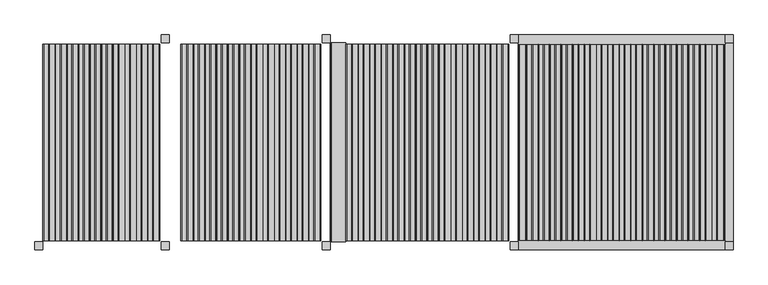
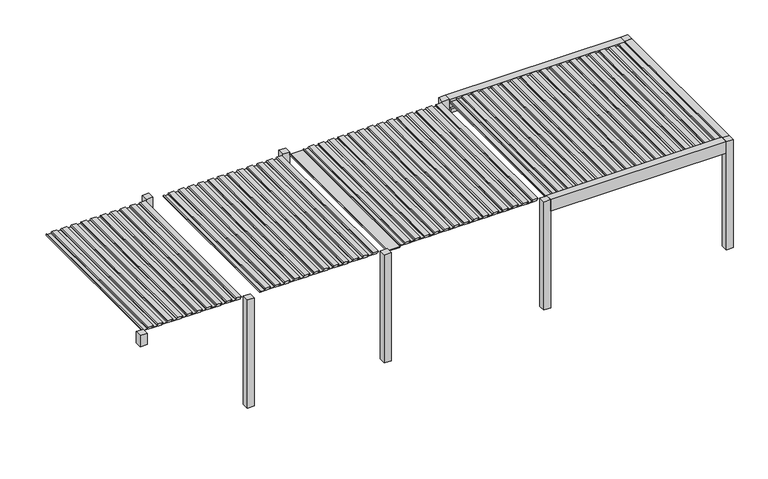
"""IFC4 building model written with IfcOpenShell, lengths in millimetres: proxy geometry, Renson_Camargue_Skye_Facade-Mounted_Patio covers : Renson_Camargue_Skye_Facade-Mounted_Patio covers."""

from ifc_helpers import new_model, si_unit, point, frame, frame_2d, origin, origin_with_axes, place, context, project, spatial, polyline, circle_curve, trimmed, segment, composite_curve, outline, extrude, source, transform, mapped, element, save


def generic_models_ba1bd23f(model_context):
    return source(origin(), model_context, "Body", "SweptSolid", [
        extrude(outline(composite_curve([segment(polyline([(2458.35, 11323.7338351), (2486.01198, 11326.1539448), (2487.3970364, 11354.9891952), (2506.8911096, 11351.5518641), (2501.6075693, 11241.5547493)]), True, "CONTINUOUS"), segment(trimmed(circle_curve(frame_2d((2486.6248435, 11242.2744212)), 15.0), [point((2501.6075693, 11241.5547493))], [point((2489.2295662, 11227.5023049))], False, "CARTESIAN"), True, "CONTINUOUS"), segment(polyline([(2489.2295662, 11227.5023049), (2470.0, 11224.1116136), (2470.0, 11136.3758376), (2487.0788237, 11133.3643801), (2486.3450182, 11118.0874097), (2458.35, 11115.6381629), (2458.35, 11323.7338351)]), True, "CONTINUOUS")], self_intersect=False)), frame((0.0, -1830.0, 0.0), z_axis=(0.0, 1.0, 0.0), x_axis=(0.0, 0.0, 1.0)), (0.0, 0.0, 1.0), 3660.0),
        extrude(outline(composite_curve([segment(polyline([(2458.35, 11108.7230303), (2486.01198, 11111.14314), (2487.3970364, 11139.9783904), (2506.8911096, 11136.5410594), (2501.6075693, 11026.5439445)]), True, "CONTINUOUS"), segment(trimmed(circle_curve(frame_2d((2486.6248435, 11027.2636164)), 15.0), [point((2501.6075693, 11026.5439445))], [point((2489.2295662, 11012.4915001))], False, "CARTESIAN"), True, "CONTINUOUS"), segment(polyline([(2489.2295662, 11012.4915001), (2470.0, 11009.1008088), (2470.0, 10921.3650328), (2487.0788237, 10918.3535754), (2486.3450182, 10903.0766049), (2458.35, 10900.6273582), (2458.35, 11108.7230303)]), True, "CONTINUOUS")], self_intersect=False)), frame((0.0, -1830.0, 0.0), z_axis=(0.0, 1.0, 0.0), x_axis=(0.0, 0.0, 1.0)), (0.0, 0.0, 1.0), 3660.0),
        extrude(outline(composite_curve([segment(polyline([(2458.35, 10893.7122255), (2486.01198, 10896.1323352), (2487.3970364, 10924.9675857), (2506.8911096, 10921.5302546), (2501.6075693, 10811.5331397)]), True, "CONTINUOUS"), segment(trimmed(circle_curve(frame_2d((2486.6248435, 10812.2528117)), 15.0), [point((2501.6075693, 10811.5331397))], [point((2489.2295662, 10797.4806954))], False, "CARTESIAN"), True, "CONTINUOUS"), segment(polyline([(2489.2295662, 10797.4806954), (2470.0, 10794.090004), (2470.0, 10706.354228), (2487.0788237, 10703.3427706), (2486.3450182, 10688.0658001), (2458.35, 10685.6165534), (2458.35, 10893.7122255)]), True, "CONTINUOUS")], self_intersect=False)), frame((0.0, -1830.0, 0.0), z_axis=(0.0, 1.0, 0.0), x_axis=(0.0, 0.0, 1.0)), (0.0, 0.0, 1.0), 3660.0),
        extrude(outline(composite_curve([segment(polyline([(2458.35, 10678.7014208), (2486.01198, 10681.1215304), (2487.3970364, 10709.9567809), (2506.8911096, 10706.5194498), (2501.6075693, 10596.5223349)]), True, "CONTINUOUS"), segment(trimmed(circle_curve(frame_2d((2486.6248435, 10597.2420069)), 15.0), [point((2501.6075693, 10596.5223349))], [point((2489.2295662, 10582.4698906))], False, "CARTESIAN"), True, "CONTINUOUS"), segment(polyline([(2489.2295662, 10582.4698906), (2470.0, 10579.0791992), (2470.0, 10491.3434232), (2487.0788237, 10488.3319658), (2486.3450182, 10473.0549953), (2458.35, 10470.6057486), (2458.35, 10678.7014208)]), True, "CONTINUOUS")], self_intersect=False)), frame((0.0, -1830.0, 0.0), z_axis=(0.0, 1.0, 0.0), x_axis=(0.0, 0.0, 1.0)), (0.0, 0.0, 1.0), 3660.0),
        extrude(outline(composite_curve([segment(polyline([(2458.35, 10463.690616), (2486.01198, 10466.1107256), (2487.3970364, 10494.9459761), (2506.8911096, 10491.508645), (2501.6075693, 10381.5115302)]), True, "CONTINUOUS"), segment(trimmed(circle_curve(frame_2d((2486.6248435, 10382.2312021)), 15.0), [point((2501.6075693, 10381.5115302))], [point((2489.2295662, 10367.4590858))], False, "CARTESIAN"), True, "CONTINUOUS"), segment(polyline([(2489.2295662, 10367.4590858), (2470.0, 10364.0683945), (2470.0, 10276.3326184), (2487.0788237, 10273.321161), (2486.3450182, 10258.0441905), (2458.35, 10255.5949438), (2458.35, 10463.690616)]), True, "CONTINUOUS")], self_intersect=False)), frame((0.0, -1830.0, 0.0), z_axis=(0.0, 1.0, 0.0), x_axis=(0.0, 0.0, 1.0)), (0.0, 0.0, 1.0), 3660.0),
        extrude(outline(composite_curve([segment(polyline([(2458.35, 10248.6798112), (2486.01198, 10251.0999209), (2487.3970364, 10279.9351713), (2506.8911096, 10276.4978402), (2501.6075693, 10166.5007254)]), True, "CONTINUOUS"), segment(trimmed(circle_curve(frame_2d((2486.6248435, 10167.2203973)), 15.0), [point((2501.6075693, 10166.5007254))], [point((2489.2295662, 10152.448281))], False, "CARTESIAN"), True, "CONTINUOUS"), segment(polyline([(2489.2295662, 10152.448281), (2470.0, 10149.0575897), (2470.0, 10061.3218136), (2487.0788237, 10058.3103562), (2486.3450182, 10043.0333858), (2458.35, 10040.584139), (2458.35, 10248.6798112)]), True, "CONTINUOUS")], self_intersect=False)), frame((0.0, -1830.0, 0.0), z_axis=(0.0, 1.0, 0.0), x_axis=(0.0, 0.0, 1.0)), (0.0, 0.0, 1.0), 3660.0),
        extrude(outline(composite_curve([segment(polyline([(2458.35, 10033.6690064), (2486.01198, 10036.0891161), (2487.3970364, 10064.9243665), (2506.8911096, 10061.4870355), (2501.6075693, 9951.4899206)]), True, "CONTINUOUS"), segment(trimmed(circle_curve(frame_2d((2486.6248435, 9952.2095925)), 15.0), [point((2501.6075693, 9951.4899206))], [point((2489.2295662, 9937.4374762))], False, "CARTESIAN"), True, "CONTINUOUS"), segment(polyline([(2489.2295662, 9937.4374762), (2470.0, 9934.0467849), (2470.0, 9846.3110089), (2487.0788237, 9843.2995515), (2486.3450182, 9828.022581), (2458.35, 9825.5733343), (2458.35, 10033.6690064)]), True, "CONTINUOUS")], self_intersect=False)), frame((0.0, -1830.0, 0.0), z_axis=(0.0, 1.0, 0.0), x_axis=(0.0, 0.0, 1.0)), (0.0, 0.0, 1.0), 3660.0),
        extrude(outline(composite_curve([segment(polyline([(2458.35, 9818.6582016), (2486.01198, 9821.0783113), (2487.3970364, 9849.9135617), (2506.8911096, 9846.4762307), (2501.6075693, 9736.4791158)]), True, "CONTINUOUS"), segment(trimmed(circle_curve(frame_2d((2486.6248435, 9737.1987878)), 15.0), [point((2501.6075693, 9736.4791158))], [point((2489.2295662, 9722.4266715))], False, "CARTESIAN"), True, "CONTINUOUS"), segment(polyline([(2489.2295662, 9722.4266715), (2470.0, 9719.0359801), (2470.0, 9631.3002041), (2487.0788237, 9628.2887467), (2486.3450182, 9613.0117762), (2458.35, 9610.5625295), (2458.35, 9818.6582016)]), True, "CONTINUOUS")], self_intersect=False)), frame((0.0, -1830.0, 0.0), z_axis=(0.0, 1.0, 0.0), x_axis=(0.0, 0.0, 1.0)), (0.0, 0.0, 1.0), 3660.0),
        extrude(outline(composite_curve([segment(polyline([(2458.35, 9603.6473968), (2486.01198, 9606.0675065), (2487.3970364, 9634.902757), (2506.8911096, 9631.4654259), (2501.6075693, 9521.468311)]), True, "CONTINUOUS"), segment(trimmed(circle_curve(frame_2d((2486.6248435, 9522.187983)), 15.0), [point((2501.6075693, 9521.468311))], [point((2489.2295662, 9507.4158667))], False, "CARTESIAN"), True, "CONTINUOUS"), segment(polyline([(2489.2295662, 9507.4158667), (2470.0, 9504.0251753), (2470.0, 9416.2893993), (2487.0788237, 9413.2779419), (2486.3450182, 9398.0009714), (2458.35, 9395.5517247), (2458.35, 9603.6473968)]), True, "CONTINUOUS")], self_intersect=False)), frame((0.0, -1830.0, 0.0), z_axis=(0.0, 1.0, 0.0), x_axis=(0.0, 0.0, 1.0)), (0.0, 0.0, 1.0), 3660.0),
        extrude(outline(composite_curve([segment(polyline([(2458.35, 9388.6365921), (2486.01198, 9391.0567017), (2487.3970364, 9419.8919522), (2506.8911096, 9416.4546211), (2501.6075693, 9306.4575063)]), True, "CONTINUOUS"), segment(trimmed(circle_curve(frame_2d((2486.6248435, 9307.1771782)), 15.0), [point((2501.6075693, 9306.4575063))], [point((2489.2295662, 9292.4050619))], False, "CARTESIAN"), True, "CONTINUOUS"), segment(polyline([(2489.2295662, 9292.4050619), (2470.0, 9289.0143706), (2470.0, 9201.2785945), (2487.0788237, 9198.2671371), (2486.3450182, 9182.9901666), (2458.35, 9180.5409199), (2458.35, 9388.6365921)]), True, "CONTINUOUS")], self_intersect=False)), frame((0.0, -1830.0, 0.0), z_axis=(0.0, 1.0, 0.0), x_axis=(0.0, 0.0, 1.0)), (0.0, 0.0, 1.0), 3660.0),
        extrude(outline(composite_curve([segment(polyline([(2458.35, 9173.6257873), (2486.01198, 9176.0458969), (2487.3970364, 9204.8811474), (2506.8911096, 9201.4438163), (2501.6075693, 9091.4467015)]), True, "CONTINUOUS"), segment(trimmed(circle_curve(frame_2d((2486.6248435, 9092.1663734)), 15.0), [point((2501.6075693, 9091.4467015))], [point((2489.2295662, 9077.3942571))], False, "CARTESIAN"), True, "CONTINUOUS"), segment(polyline([(2489.2295662, 9077.3942571), (2470.0, 9074.0035658), (2470.0, 8986.2677897), (2487.0788237, 8983.2563323), (2486.3450182, 8967.9793619), (2458.35, 8965.5301151), (2458.35, 9173.6257873)]), True, "CONTINUOUS")], self_intersect=False)), frame((0.0, -1830.0, 0.0), z_axis=(0.0, 1.0, 0.0), x_axis=(0.0, 0.0, 1.0)), (0.0, 0.0, 1.0), 3660.0),
        extrude(outline(composite_curve([segment(polyline([(2458.35, 8958.6149825), (2486.01198, 8961.0350922), (2487.3970364, 8989.8703426), (2506.8911096, 8986.4330115), (2501.6075693, 8876.4358967)]), True, "CONTINUOUS"), segment(trimmed(circle_curve(frame_2d((2486.6248435, 8877.1555686)), 15.0), [point((2501.6075693, 8876.4358967))], [point((2489.2295662, 8862.3834523))], False, "CARTESIAN"), True, "CONTINUOUS"), segment(polyline([(2489.2295662, 8862.3834523), (2470.0, 8858.992761), (2470.0, 8771.256985), (2487.0788237, 8768.2455275), (2486.3450182, 8752.9685571), (2458.35, 8750.5193103), (2458.35, 8958.6149825)]), True, "CONTINUOUS")], self_intersect=False)), frame((0.0, -1830.0, 0.0), z_axis=(0.0, 1.0, 0.0), x_axis=(0.0, 0.0, 1.0)), (0.0, 0.0, 1.0), 3660.0),
        extrude(outline(composite_curve([segment(polyline([(2458.35, 8743.6041777), (2486.01198, 8746.0242874), (2487.3970364, 8774.8595378), (2506.8911096, 8771.4222068), (2501.6075693, 8661.4250919)]), True, "CONTINUOUS"), segment(trimmed(circle_curve(frame_2d((2486.6248435, 8662.1447638)), 15.0), [point((2501.6075693, 8661.4250919))], [point((2489.2295662, 8647.3726475))], False, "CARTESIAN"), True, "CONTINUOUS"), segment(polyline([(2489.2295662, 8647.3726475), (2470.0, 8643.9819562), (2470.0, 8556.2461802), (2487.0788237, 8553.2347228), (2486.3450182, 8537.9577523), (2458.35, 8535.5085056), (2458.35, 8743.6041777)]), True, "CONTINUOUS")], self_intersect=False)), frame((0.0, -1830.0, 0.0), z_axis=(0.0, 1.0, 0.0), x_axis=(0.0, 0.0, 1.0)), (0.0, 0.0, 1.0), 3660.0),
        extrude(outline(composite_curve([segment(polyline([(2458.35, 8528.5933729), (2486.01198, 8531.0134826), (2487.3970364, 8559.8487331), (2506.8911096, 8556.411402), (2501.6075693, 8446.4142871)]), True, "CONTINUOUS"), segment(trimmed(circle_curve(frame_2d((2486.6248435, 8447.1339591)), 15.0), [point((2501.6075693, 8446.4142871))], [point((2489.2295662, 8432.3618428))], False, "CARTESIAN"), True, "CONTINUOUS"), segment(polyline([(2489.2295662, 8432.3618428), (2470.0, 8428.9711514), (2470.0, 8341.2353754), (2487.0788237, 8338.223918), (2486.3450182, 8322.9469475), (2458.35, 8320.4977008), (2458.35, 8528.5933729)]), True, "CONTINUOUS")], self_intersect=False)), frame((0.0, -1830.0, 0.0), z_axis=(0.0, 1.0, 0.0), x_axis=(0.0, 0.0, 1.0)), (0.0, 0.0, 1.0), 3660.0),
        extrude(outline(composite_curve([segment(polyline([(2458.35, 8313.5825682), (2486.01198, 8316.0026778), (2487.3970364, 8344.8379283), (2506.8911096, 8341.4005972), (2501.6075693, 8231.4034824)]), True, "CONTINUOUS"), segment(trimmed(circle_curve(frame_2d((2486.6248435, 8232.1231543)), 15.0), [point((2501.6075693, 8231.4034824))], [point((2489.2295662, 8217.351038))], False, "CARTESIAN"), True, "CONTINUOUS"), segment(polyline([(2489.2295662, 8217.351038), (2470.0, 8213.9603466), (2470.0, 8126.2245706), (2487.0788237, 8123.2131132), (2486.3450182, 8107.9361427), (2458.35, 8105.486896), (2458.35, 8313.5825682)]), True, "CONTINUOUS")], self_intersect=False)), frame((0.0, -1830.0, 0.0), z_axis=(0.0, 1.0, 0.0), x_axis=(0.0, 0.0, 1.0)), (0.0, 0.0, 1.0), 3660.0),
        extrude(outline(composite_curve([segment(polyline([(2458.35, 11538.7446399), (2486.01198, 11541.1647495), (2487.3970364, 11570.0), (2506.8911096, 11566.5626689), (2501.6075693, 11456.5655541)]), True, "CONTINUOUS"), segment(trimmed(circle_curve(frame_2d((2486.6248435, 11457.285226)), 15.0), [point((2501.6075693, 11456.5655541))], [point((2489.2295662, 11442.5131097))], False, "CARTESIAN"), True, "CONTINUOUS"), segment(polyline([(2489.2295662, 11442.5131097), (2470.0, 11439.1224184), (2470.0, 11351.3866423), (2487.0788237, 11348.3751849), (2486.3450182, 11333.0982144), (2458.35, 11330.6489677), (2458.35, 11538.7446399)]), True, "CONTINUOUS")], self_intersect=False)), frame((0.0, -1830.0, 0.0), z_axis=(0.0, 1.0, 0.0), x_axis=(0.0, 0.0, 1.0)), (0.0, 0.0, 1.0), 3660.0),
        extrude(outline(composite_curve([segment(polyline([(2458.35, 8098.5717634), (2486.01198, 8100.991873), (2487.3970364, 8129.8271235), (2506.8911096, 8126.3897924), (2501.6075693, 8016.3926776)]), True, "CONTINUOUS"), segment(trimmed(circle_curve(frame_2d((2486.6248435, 8017.1123495)), 15.0), [point((2501.6075693, 8016.3926776))], [point((2489.2295662, 8002.3402332))], False, "CARTESIAN"), True, "CONTINUOUS"), segment(polyline([(2489.2295662, 8002.3402332), (2470.0, 7998.9495419), (2470.0, 7911.2137658), (2487.0788237, 7908.2023084), (2486.3450182, 7892.9253379), (2458.35, 7890.4760912), (2458.35, 8098.5717634)]), True, "CONTINUOUS")], self_intersect=False)), frame((0.0, -1830.0, 0.0), z_axis=(0.0, 1.0, 0.0), x_axis=(0.0, 0.0, 1.0)), (0.0, 0.0, 1.0), 3660.0),
        extrude(outline(composite_curve([segment(polyline([(2458.35, 7323.7313417), (2486.01198, 7326.1514513), (2487.3970364, 7354.9867018), (2506.8911096, 7351.5493707), (2501.6075693, 7241.5522559)]), True, "CONTINUOUS"), segment(trimmed(circle_curve(frame_2d((2486.6248435, 7242.2719278)), 15.0), [point((2501.6075693, 7241.5522559))], [point((2489.2295662, 7227.4998115))], False, "CARTESIAN"), True, "CONTINUOUS"), segment(polyline([(2489.2295662, 7227.4998115), (2470.0, 7224.1091202), (2470.0, 7136.3733441), (2487.0788237, 7133.3618867), (2486.3450182, 7118.0849163), (2458.35, 7115.6356695), (2458.35, 7323.7313417)]), True, "CONTINUOUS")], self_intersect=False)), frame((0.0, -1830.0, 0.0), z_axis=(0.0, 1.0, 0.0), x_axis=(0.0, 0.0, 1.0)), (0.0, 0.0, 1.0), 3660.0),
        extrude(outline(composite_curve([segment(polyline([(2458.35, 7108.7180435), (2486.01198, 7111.1381532), (2487.3970364, 7139.9734036), (2506.8911096, 7136.5360725), (2501.6075693, 7026.5389577)]), True, "CONTINUOUS"), segment(trimmed(circle_curve(frame_2d((2486.6248435, 7027.2586296)), 15.0), [point((2501.6075693, 7026.5389577))], [point((2489.2295662, 7012.4865133))], False, "CARTESIAN"), True, "CONTINUOUS"), segment(polyline([(2489.2295662, 7012.4865133), (2470.0, 7009.095822), (2470.0, 6921.360046), (2487.0788237, 6918.3485885), (2486.3450182, 6903.0716181), (2458.35, 6900.6223713), (2458.35, 7108.7180435)]), True, "CONTINUOUS")], self_intersect=False)), frame((0.0, -1830.0, 0.0), z_axis=(0.0, 1.0, 0.0), x_axis=(0.0, 0.0, 1.0)), (0.0, 0.0, 1.0), 3660.0),
        extrude(outline(composite_curve([segment(polyline([(2458.35, 6893.7047453), (2486.01198, 6896.124855), (2487.3970364, 6924.9601054), (2506.8911096, 6921.5227743), (2501.6075693, 6811.5256595)]), True, "CONTINUOUS"), segment(trimmed(circle_curve(frame_2d((2486.6248435, 6812.2453314)), 15.0), [point((2501.6075693, 6811.5256595))], [point((2489.2295662, 6797.4732151))], False, "CARTESIAN"), True, "CONTINUOUS"), segment(polyline([(2489.2295662, 6797.4732151), (2470.0, 6794.0825238), (2470.0, 6706.3467478), (2487.0788237, 6703.3352903), (2486.3450182, 6688.0583199), (2458.35, 6685.6090731), (2458.35, 6893.7047453)]), True, "CONTINUOUS")], self_intersect=False)), frame((0.0, -1830.0, 0.0), z_axis=(0.0, 1.0, 0.0), x_axis=(0.0, 0.0, 1.0)), (0.0, 0.0, 1.0), 3660.0),
        extrude(outline(composite_curve([segment(polyline([(2458.35, 6678.6914471), (2486.01198, 6681.1115568), (2487.3970364, 6709.9468072), (2506.8911096, 6706.5094762), (2501.6075693, 6596.5123613)]), True, "CONTINUOUS"), segment(trimmed(circle_curve(frame_2d((2486.6248435, 6597.2320332)), 15.0), [point((2501.6075693, 6596.5123613))], [point((2489.2295662, 6582.4599169))], False, "CARTESIAN"), True, "CONTINUOUS"), segment(polyline([(2489.2295662, 6582.4599169), (2470.0, 6579.0692256), (2470.0, 6491.3334496), (2487.0788237, 6488.3219922), (2486.3450182, 6473.0450217), (2458.35, 6470.595775), (2458.35, 6678.6914471)]), True, "CONTINUOUS")], self_intersect=False)), frame((0.0, -1830.0, 0.0), z_axis=(0.0, 1.0, 0.0), x_axis=(0.0, 0.0, 1.0)), (0.0, 0.0, 1.0), 3660.0),
        extrude(outline(composite_curve([segment(polyline([(2458.35, 6463.6781489), (2486.01198, 6466.0982586), (2487.3970364, 6494.933509), (2506.8911096, 6491.496178), (2501.6075693, 6381.4990631)]), True, "CONTINUOUS"), segment(trimmed(circle_curve(frame_2d((2486.6248435, 6382.218735)), 15.0), [point((2501.6075693, 6381.4990631))], [point((2489.2295662, 6367.4466187))], False, "CARTESIAN"), True, "CONTINUOUS"), segment(polyline([(2489.2295662, 6367.4466187), (2470.0, 6364.0559274), (2470.0, 6276.3201514), (2487.0788237, 6273.308694), (2486.3450182, 6258.0317235), (2458.35, 6255.5824768), (2458.35, 6463.6781489)]), True, "CONTINUOUS")], self_intersect=False)), frame((0.0, -1830.0, 0.0), z_axis=(0.0, 1.0, 0.0), x_axis=(0.0, 0.0, 1.0)), (0.0, 0.0, 1.0), 3660.0),
        extrude(outline(composite_curve([segment(polyline([(2458.35, 6248.6648507), (2486.01198, 6251.0849604), (2487.3970364, 6279.9202108), (2506.8911096, 6276.4828798), (2501.6075693, 6166.4857649)]), True, "CONTINUOUS"), segment(trimmed(circle_curve(frame_2d((2486.6248435, 6167.2054368)), 15.0), [point((2501.6075693, 6166.4857649))], [point((2489.2295662, 6152.4333206))], False, "CARTESIAN"), True, "CONTINUOUS"), segment(polyline([(2489.2295662, 6152.4333206), (2470.0, 6149.0426292), (2470.0, 6061.3068532), (2487.0788237, 6058.2953958), (2486.3450182, 6043.0184253), (2458.35, 6040.5691786), (2458.35, 6248.6648507)]), True, "CONTINUOUS")], self_intersect=False)), frame((0.0, -1830.0, 0.0), z_axis=(0.0, 1.0, 0.0), x_axis=(0.0, 0.0, 1.0)), (0.0, 0.0, 1.0), 3660.0),
        extrude(outline(composite_curve([segment(polyline([(2458.35, 6033.6515525), (2486.01198, 6036.0716622), (2487.3970364, 6064.9069127), (2506.8911096, 6061.4695816), (2501.6075693, 5951.4724667)]), True, "CONTINUOUS"), segment(trimmed(circle_curve(frame_2d((2486.6248435, 5952.1921387)), 15.0), [point((2501.6075693, 5951.4724667))], [point((2489.2295662, 5937.4200224))], False, "CARTESIAN"), True, "CONTINUOUS"), segment(polyline([(2489.2295662, 5937.4200224), (2470.0, 5934.029331), (2470.0, 5846.293555), (2487.0788237, 5843.2820976), (2486.3450182, 5828.0051271), (2458.35, 5825.5558804), (2458.35, 6033.6515525)]), True, "CONTINUOUS")], self_intersect=False)), frame((0.0, -1830.0, 0.0), z_axis=(0.0, 1.0, 0.0), x_axis=(0.0, 0.0, 1.0)), (0.0, 0.0, 1.0), 3660.0),
        extrude(outline(composite_curve([segment(polyline([(2458.35, 5818.6382543), (2486.01198, 5821.058364), (2487.3970364, 5849.8936145), (2506.8911096, 5846.4562834), (2501.6075693, 5736.4591685)]), True, "CONTINUOUS"), segment(trimmed(circle_curve(frame_2d((2486.6248435, 5737.1788405)), 15.0), [point((2501.6075693, 5736.4591685))], [point((2489.2295662, 5722.4067242))], False, "CARTESIAN"), True, "CONTINUOUS"), segment(polyline([(2489.2295662, 5722.4067242), (2470.0, 5719.0160328), (2470.0, 5631.2802568), (2487.0788237, 5628.2687994), (2486.3450182, 5612.9918289), (2458.35, 5610.5425822), (2458.35, 5818.6382543)]), True, "CONTINUOUS")], self_intersect=False)), frame((0.0, -1830.0, 0.0), z_axis=(0.0, 1.0, 0.0), x_axis=(0.0, 0.0, 1.0)), (0.0, 0.0, 1.0), 3660.0),
        extrude(outline(composite_curve([segment(polyline([(2458.35, 5603.6249561), (2486.01198, 5606.0450658), (2487.3970364, 5634.8803163), (2506.8911096, 5631.4429852), (2501.6075693, 5521.4458703)]), True, "CONTINUOUS"), segment(trimmed(circle_curve(frame_2d((2486.6248435, 5522.1655423)), 15.0), [point((2501.6075693, 5521.4458703))], [point((2489.2295662, 5507.393426))], False, "CARTESIAN"), True, "CONTINUOUS"), segment(polyline([(2489.2295662, 5507.393426), (2470.0, 5504.0027346), (2470.0, 5416.2669586), (2487.0788237, 5413.2555012), (2486.3450182, 5397.9785307), (2458.35, 5395.529284), (2458.35, 5603.6249561)]), True, "CONTINUOUS")], self_intersect=False)), frame((0.0, -1830.0, 0.0), z_axis=(0.0, 1.0, 0.0), x_axis=(0.0, 0.0, 1.0)), (0.0, 0.0, 1.0), 3660.0),
        extrude(outline(composite_curve([segment(polyline([(2458.35, 5388.611658), (2486.01198, 5391.0317676), (2487.3970364, 5419.8670181), (2506.8911096, 5416.429687), (2501.6075693, 5306.4325721)]), True, "CONTINUOUS"), segment(trimmed(circle_curve(frame_2d((2486.6248435, 5307.1522441)), 15.0), [point((2501.6075693, 5306.4325721))], [point((2489.2295662, 5292.3801278))], False, "CARTESIAN"), True, "CONTINUOUS"), segment(polyline([(2489.2295662, 5292.3801278), (2470.0, 5288.9894364), (2470.0, 5201.2536604), (2487.0788237, 5198.242203), (2486.3450182, 5182.9652325), (2458.35, 5180.5159858), (2458.35, 5388.611658)]), True, "CONTINUOUS")], self_intersect=False)), frame((0.0, -1830.0, 0.0), z_axis=(0.0, 1.0, 0.0), x_axis=(0.0, 0.0, 1.0)), (0.0, 0.0, 1.0), 3660.0),
        extrude(outline(composite_curve([segment(polyline([(2458.35, 5173.5983598), (2486.01198, 5176.0184694), (2487.3970364, 5204.8537199), (2506.8911096, 5201.4163888), (2501.6075693, 5091.419274)]), True, "CONTINUOUS"), segment(trimmed(circle_curve(frame_2d((2486.6248435, 5092.1389459)), 15.0), [point((2501.6075693, 5091.419274))], [point((2489.2295662, 5077.3668296))], False, "CARTESIAN"), True, "CONTINUOUS"), segment(polyline([(2489.2295662, 5077.3668296), (2470.0, 5073.9761382), (2470.0, 4986.2403622), (2487.0788237, 4983.2289048), (2486.3450182, 4967.9519343), (2458.35, 4965.5026876), (2458.35, 5173.5983598)]), True, "CONTINUOUS")], self_intersect=False)), frame((0.0, -1830.0, 0.0), z_axis=(0.0, 1.0, 0.0), x_axis=(0.0, 0.0, 1.0)), (0.0, 0.0, 1.0), 3660.0),
        extrude(outline(composite_curve([segment(polyline([(2458.35, 4958.5850616), (2486.01198, 4961.0051712), (2487.3970364, 4989.8404217), (2506.8911096, 4986.4030906), (2501.6075693, 4876.4059758)]), True, "CONTINUOUS"), segment(trimmed(circle_curve(frame_2d((2486.6248435, 4877.1256477)), 15.0), [point((2501.6075693, 4876.4059758))], [point((2489.2295662, 4862.3535314))], False, "CARTESIAN"), True, "CONTINUOUS"), segment(polyline([(2489.2295662, 4862.3535314), (2470.0, 4858.9628401), (2470.0, 4771.227064), (2487.0788237, 4768.2156066), (2486.3450182, 4752.9386361), (2458.35, 4750.4893894), (2458.35, 4958.5850616)]), True, "CONTINUOUS")], self_intersect=False)), frame((0.0, -1830.0, 0.0), z_axis=(0.0, 1.0, 0.0), x_axis=(0.0, 0.0, 1.0)), (0.0, 0.0, 1.0), 3660.0),
        extrude(outline(composite_curve([segment(polyline([(2458.35, 7538.7446399), (2486.01198, 7541.1647495), (2487.3970364, 7570.0), (2506.8911096, 7566.5626689), (2501.6075693, 7456.5655541)]), True, "CONTINUOUS"), segment(trimmed(circle_curve(frame_2d((2486.6248435, 7457.285226)), 15.0), [point((2501.6075693, 7456.5655541))], [point((2489.2295662, 7442.5131097))], False, "CARTESIAN"), True, "CONTINUOUS"), segment(polyline([(2489.2295662, 7442.5131097), (2470.0, 7439.1224184), (2470.0, 7351.3866423), (2487.0788237, 7348.3751849), (2486.3450182, 7333.0982144), (2458.35, 7330.6489677), (2458.35, 7538.7446399)]), True, "CONTINUOUS")], self_intersect=False)), frame((0.0, -1830.0, 0.0), z_axis=(0.0, 1.0, 0.0), x_axis=(0.0, 0.0, 1.0)), (0.0, 0.0, 1.0), 3660.0),
        extrude(outline(composite_curve([segment(polyline([(2458.35, 4743.5717634), (2486.01198, 4745.991873), (2487.3970364, 4774.8271235), (2506.8911096, 4771.3897924), (2501.6075693, 4661.3926776)]), True, "CONTINUOUS"), segment(trimmed(circle_curve(frame_2d((2486.6248435, 4662.1123495)), 15.0), [point((2501.6075693, 4661.3926776))], [point((2489.2295662, 4647.3402332))], False, "CARTESIAN"), True, "CONTINUOUS"), segment(polyline([(2489.2295662, 4647.3402332), (2470.0, 4643.9495419), (2470.0, 4556.2137658), (2487.0788237, 4553.2023084), (2486.3450182, 4537.9253379), (2458.35, 4535.4760912), (2458.35, 4743.5717634)]), True, "CONTINUOUS")], self_intersect=False)), frame((0.0, -1830.0, 0.0), z_axis=(0.0, 1.0, 0.0), x_axis=(0.0, 0.0, 1.0)), (0.0, 0.0, 1.0), 3660.0),
        extrude(outline(composite_curve([segment(polyline([(2458.35, 3823.7289238), (2486.01198, 3826.1490335), (2487.3970364, 3854.984284), (2506.8911096, 3851.5469529), (2501.6075693, 3741.549838)]), True, "CONTINUOUS"), segment(trimmed(circle_curve(frame_2d((2486.6248435, 3742.26951)), 15.0), [point((2501.6075693, 3741.549838))], [point((2489.2295662, 3727.4973937))], False, "CARTESIAN"), True, "CONTINUOUS"), segment(polyline([(2489.2295662, 3727.4973937), (2470.0, 3724.1067023), (2470.0, 3636.3709263), (2487.0788237, 3633.3594689), (2486.3450182, 3618.0824984), (2458.35, 3615.6332517), (2458.35, 3823.7289238)]), True, "CONTINUOUS")], self_intersect=False)), frame((0.0, -1830.0, 0.0), z_axis=(0.0, 1.0, 0.0), x_axis=(0.0, 0.0, 1.0)), (0.0, 0.0, 1.0), 3660.0),
        extrude(outline(composite_curve([segment(polyline([(2458.35, 3608.7132078), (2486.01198, 3611.1333174), (2487.3970364, 3639.9685679), (2506.8911096, 3636.5312368), (2501.6075693, 3526.534122)]), True, "CONTINUOUS"), segment(trimmed(circle_curve(frame_2d((2486.6248435, 3527.2537939)), 15.0), [point((2501.6075693, 3526.534122))], [point((2489.2295662, 3512.4816776))], False, "CARTESIAN"), True, "CONTINUOUS"), segment(polyline([(2489.2295662, 3512.4816776), (2470.0, 3509.0909863), (2470.0, 3421.3552102), (2487.0788237, 3418.3437528), (2486.3450182, 3403.0667824), (2458.35, 3400.6175356), (2458.35, 3608.7132078)]), True, "CONTINUOUS")], self_intersect=False)), frame((0.0, -1830.0, 0.0), z_axis=(0.0, 1.0, 0.0), x_axis=(0.0, 0.0, 1.0)), (0.0, 0.0, 1.0), 3660.0),
        extrude(outline(composite_curve([segment(polyline([(2458.35, 3393.6974917), (2486.01198, 3396.1176014), (2487.3970364, 3424.9528519), (2506.8911096, 3421.5155208), (2501.6075693, 3311.5184059)]), True, "CONTINUOUS"), segment(trimmed(circle_curve(frame_2d((2486.6248435, 3312.2380779)), 15.0), [point((2501.6075693, 3311.5184059))], [point((2489.2295662, 3297.4659616))], False, "CARTESIAN"), True, "CONTINUOUS"), segment(polyline([(2489.2295662, 3297.4659616), (2470.0, 3294.0752702), (2470.0, 3206.3394942), (2487.0788237, 3203.3280368), (2486.3450182, 3188.0510663), (2458.35, 3185.6018196), (2458.35, 3393.6974917)]), True, "CONTINUOUS")], self_intersect=False)), frame((0.0, -1830.0, 0.0), z_axis=(0.0, 1.0, 0.0), x_axis=(0.0, 0.0, 1.0)), (0.0, 0.0, 1.0), 3660.0),
        extrude(outline(composite_curve([segment(polyline([(2458.35, 3178.6817757), (2486.01198, 3181.1018854), (2487.3970364, 3209.9371358), (2506.8911096, 3206.4998047), (2501.6075693, 3096.5026899)]), True, "CONTINUOUS"), segment(trimmed(circle_curve(frame_2d((2486.6248435, 3097.2223618)), 15.0), [point((2501.6075693, 3096.5026899))], [point((2489.2295662, 3082.4502455))], False, "CARTESIAN"), True, "CONTINUOUS"), segment(polyline([(2489.2295662, 3082.4502455), (2470.0, 3079.0595542), (2470.0, 2991.3237782), (2487.0788237, 2988.3123207), (2486.3450182, 2973.0353503), (2458.35, 2970.5861035), (2458.35, 3178.6817757)]), True, "CONTINUOUS")], self_intersect=False)), frame((0.0, -1830.0, 0.0), z_axis=(0.0, 1.0, 0.0), x_axis=(0.0, 0.0, 1.0)), (0.0, 0.0, 1.0), 3660.0),
        extrude(outline(composite_curve([segment(polyline([(2458.35, 2963.6660597), (2486.01198, 2966.0861693), (2487.3970364, 2994.9214198), (2506.8911096, 2991.4840887), (2501.6075693, 2881.4869738)]), True, "CONTINUOUS"), segment(trimmed(circle_curve(frame_2d((2486.6248435, 2882.2066458)), 15.0), [point((2501.6075693, 2881.4869738))], [point((2489.2295662, 2867.4345295))], False, "CARTESIAN"), True, "CONTINUOUS"), segment(polyline([(2489.2295662, 2867.4345295), (2470.0, 2864.0438381), (2470.0, 2776.3080621), (2487.0788237, 2773.2966047), (2486.3450182, 2758.0196342), (2458.35, 2755.5703875), (2458.35, 2963.6660597)]), True, "CONTINUOUS")], self_intersect=False)), frame((0.0, -1830.0, 0.0), z_axis=(0.0, 1.0, 0.0), x_axis=(0.0, 0.0, 1.0)), (0.0, 0.0, 1.0), 3660.0),
        extrude(outline(composite_curve([segment(polyline([(2458.35, 2748.6503436), (2486.01198, 2751.0704533), (2487.3970364, 2779.9057037), (2506.8911096, 2776.4683726), (2501.6075693, 2666.4712578)]), True, "CONTINUOUS"), segment(trimmed(circle_curve(frame_2d((2486.6248435, 2667.1909297)), 15.0), [point((2501.6075693, 2666.4712578))], [point((2489.2295662, 2652.4188134))], False, "CARTESIAN"), True, "CONTINUOUS"), segment(polyline([(2489.2295662, 2652.4188134), (2470.0, 2649.0281221), (2470.0, 2561.2923461), (2487.0788237, 2558.2808886), (2486.3450182, 2543.0039182), (2458.35, 2540.5546714), (2458.35, 2748.6503436)]), True, "CONTINUOUS")], self_intersect=False)), frame((0.0, -1830.0, 0.0), z_axis=(0.0, 1.0, 0.0), x_axis=(0.0, 0.0, 1.0)), (0.0, 0.0, 1.0), 3660.0),
        extrude(outline(composite_curve([segment(polyline([(2458.35, 2533.6346276), (2486.01198, 2536.0547372), (2487.3970364, 2564.8899877), (2506.8911096, 2561.4526566), (2501.6075693, 2451.4555418)]), True, "CONTINUOUS"), segment(trimmed(circle_curve(frame_2d((2486.6248435, 2452.1752137)), 15.0), [point((2501.6075693, 2451.4555418))], [point((2489.2295662, 2437.4030974))], False, "CARTESIAN"), True, "CONTINUOUS"), segment(polyline([(2489.2295662, 2437.4030974), (2470.0, 2434.012406), (2470.0, 2346.27663), (2487.0788237, 2343.2651726), (2486.3450182, 2327.9882021), (2458.35, 2325.5389554), (2458.35, 2533.6346276)]), True, "CONTINUOUS")], self_intersect=False)), frame((0.0, -1830.0, 0.0), z_axis=(0.0, 1.0, 0.0), x_axis=(0.0, 0.0, 1.0)), (0.0, 0.0, 1.0), 3660.0),
        extrude(outline(composite_curve([segment(polyline([(2458.35, 2318.6189115), (2486.01198, 2321.0390212), (2487.3970364, 2349.8742716), (2506.8911096, 2346.4369406), (2501.6075693, 2236.4398257)]), True, "CONTINUOUS"), segment(trimmed(circle_curve(frame_2d((2486.6248435, 2237.1594976)), 15.0), [point((2501.6075693, 2236.4398257))], [point((2489.2295662, 2222.3873813))], False, "CARTESIAN"), True, "CONTINUOUS"), segment(polyline([(2489.2295662, 2222.3873813), (2470.0, 2218.99669), (2470.0, 2131.260914), (2487.0788237, 2128.2494566), (2486.3450182, 2112.9724861), (2458.35, 2110.5232394), (2458.35, 2318.6189115)]), True, "CONTINUOUS")], self_intersect=False)), frame((0.0, -1830.0, 0.0), z_axis=(0.0, 1.0, 0.0), x_axis=(0.0, 0.0, 1.0)), (0.0, 0.0, 1.0), 3660.0),
        extrude(outline(composite_curve([segment(polyline([(2458.35, 2103.6031955), (2486.01198, 2106.0233051), (2487.3970364, 2134.8585556), (2506.8911096, 2131.4212245), (2501.6075693, 2021.4241097)]), True, "CONTINUOUS"), segment(trimmed(circle_curve(frame_2d((2486.6248435, 2022.1437816)), 15.0), [point((2501.6075693, 2021.4241097))], [point((2489.2295662, 2007.3716653))], False, "CARTESIAN"), True, "CONTINUOUS"), segment(polyline([(2489.2295662, 2007.3716653), (2470.0, 2003.980974), (2470.0, 1916.2451979), (2487.0788237, 1913.2337405), (2486.3450182, 1897.95677), (2458.35, 1895.5075233), (2458.35, 2103.6031955)]), True, "CONTINUOUS")], self_intersect=False)), frame((0.0, -1830.0, 0.0), z_axis=(0.0, 1.0, 0.0), x_axis=(0.0, 0.0, 1.0)), (0.0, 0.0, 1.0), 3660.0),
        extrude(outline(composite_curve([segment(polyline([(2458.35, 1888.5874794), (2486.01198, 1891.0075891), (2487.3970364, 1919.8428395), (2506.8911096, 1916.4055085), (2501.6075693, 1806.4083936)]), True, "CONTINUOUS"), segment(trimmed(circle_curve(frame_2d((2486.6248435, 1807.1280655)), 15.0), [point((2501.6075693, 1806.4083936))], [point((2489.2295662, 1792.3559492))], False, "CARTESIAN"), True, "CONTINUOUS"), segment(polyline([(2489.2295662, 1792.3559492), (2470.0, 1788.9652579), (2470.0, 1701.2294819), (2487.0788237, 1698.2180245), (2486.3450182, 1682.941054), (2458.35, 1680.4918073), (2458.35, 1888.5874794)]), True, "CONTINUOUS")], self_intersect=False)), frame((0.0, -1830.0, 0.0), z_axis=(0.0, 1.0, 0.0), x_axis=(0.0, 0.0, 1.0)), (0.0, 0.0, 1.0), 3660.0),
        extrude(outline(composite_curve([segment(polyline([(2458.35, 4038.7446399), (2486.01198, 4041.1647495), (2487.3970364, 4070.0), (2506.8911096, 4066.5626689), (2501.6075693, 3956.5655541)]), True, "CONTINUOUS"), segment(trimmed(circle_curve(frame_2d((2486.6248435, 3957.285226)), 15.0), [point((2501.6075693, 3956.5655541))], [point((2489.2295662, 3942.5131097))], False, "CARTESIAN"), True, "CONTINUOUS"), segment(polyline([(2489.2295662, 3942.5131097), (2470.0, 3939.1224184), (2470.0, 3851.3866423), (2487.0788237, 3848.3751849), (2486.3450182, 3833.0982144), (2458.35, 3830.6489677), (2458.35, 4038.7446399)]), True, "CONTINUOUS")], self_intersect=False)), frame((0.0, -1830.0, 0.0), z_axis=(0.0, 1.0, 0.0), x_axis=(0.0, 0.0, 1.0)), (0.0, 0.0, 1.0), 3660.0),
        extrude(outline(composite_curve([segment(polyline([(2458.35, 1673.5717634), (2486.01198, 1675.991873), (2487.3970364, 1704.8271235), (2506.8911096, 1701.3897924), (2501.6075693, 1591.3926776)]), True, "CONTINUOUS"), segment(trimmed(circle_curve(frame_2d((2486.6248435, 1592.1123495)), 15.0), [point((2501.6075693, 1591.3926776))], [point((2489.2295662, 1577.3402332))], False, "CARTESIAN"), True, "CONTINUOUS"), segment(polyline([(2489.2295662, 1577.3402332), (2470.0, 1573.9495419), (2470.0, 1486.2137658), (2487.0788237, 1483.2023084), (2486.3450182, 1467.9253379), (2458.35, 1465.4760912), (2458.35, 1673.5717634)]), True, "CONTINUOUS")], self_intersect=False)), frame((0.0, -1830.0, 0.0), z_axis=(0.0, 1.0, 0.0), x_axis=(0.0, 0.0, 1.0)), (0.0, 0.0, 1.0), 3660.0),
        extrude(outline(composite_curve([segment(polyline([(2458.35, 823.7254314), (2486.01198, 826.145541), (2487.3970364, 854.9807915), (2506.8911096, 851.5434604), (2501.6075693, 741.5463456)]), True, "CONTINUOUS"), segment(trimmed(circle_curve(frame_2d((2486.6248435, 742.2660175)), 15.0), [point((2501.6075693, 741.5463456))], [point((2489.2295662, 727.4939012))], False, "CARTESIAN"), True, "CONTINUOUS"), segment(polyline([(2489.2295662, 727.4939012), (2470.0, 724.1032099), (2470.0, 636.3674338), (2487.0788237, 633.3559764), (2486.3450182, 618.0790059), (2458.35, 615.6297592), (2458.35, 823.7254314)]), True, "CONTINUOUS")], self_intersect=False)), frame((0.0, -1830.0, 0.0), z_axis=(0.0, 1.0, 0.0), x_axis=(0.0, 0.0, 1.0)), (0.0, 0.0, 1.0), 3660.0),
        extrude(outline(composite_curve([segment(polyline([(2458.35, 608.7062229), (2486.01198, 611.1263325), (2487.3970364, 639.961583), (2506.8911096, 636.5242519), (2501.6075693, 526.5271371)]), True, "CONTINUOUS"), segment(trimmed(circle_curve(frame_2d((2486.6248435, 527.246809)), 15.0), [point((2501.6075693, 526.5271371))], [point((2489.2295662, 512.4746927))], False, "CARTESIAN"), True, "CONTINUOUS"), segment(polyline([(2489.2295662, 512.4746927), (2470.0, 509.0840014), (2470.0, 421.3482253), (2487.0788237, 418.3367679), (2486.3450182, 403.0597974), (2458.35, 400.6105507), (2458.35, 608.7062229)]), True, "CONTINUOUS")], self_intersect=False)), frame((0.0, -1830.0, 0.0), z_axis=(0.0, 1.0, 0.0), x_axis=(0.0, 0.0, 1.0)), (0.0, 0.0, 1.0), 3660.0),
        extrude(outline(composite_curve([segment(polyline([(2458.35, 393.6870144), (2486.01198, 396.107124), (2487.3970364, 424.9423745), (2506.8911096, 421.5050434), (2501.6075693, 311.5079286)]), True, "CONTINUOUS"), segment(trimmed(circle_curve(frame_2d((2486.6248435, 312.2276005)), 15.0), [point((2501.6075693, 311.5079286))], [point((2489.2295662, 297.4554842))], False, "CARTESIAN"), True, "CONTINUOUS"), segment(polyline([(2489.2295662, 297.4554842), (2470.0, 294.0647929), (2470.0, 206.3290168), (2487.0788237, 203.3175594), (2486.3450182, 188.0405889), (2458.35, 185.5913422), (2458.35, 393.6870144)]), True, "CONTINUOUS")], self_intersect=False)), frame((0.0, -1830.0, 0.0), z_axis=(0.0, 1.0, 0.0), x_axis=(0.0, 0.0, 1.0)), (0.0, 0.0, 1.0), 3660.0),
        extrude(outline(composite_curve([segment(polyline([(2458.35, 178.6678059), (2486.01198, 181.0879155), (2487.3970364, 209.923166), (2506.8911096, 206.4858349), (2501.6075693, 96.4887201)]), True, "CONTINUOUS"), segment(trimmed(circle_curve(frame_2d((2486.6248435, 97.208392)), 15.0), [point((2501.6075693, 96.4887201))], [point((2489.2295662, 82.4362757))], False, "CARTESIAN"), True, "CONTINUOUS"), segment(polyline([(2489.2295662, 82.4362757), (2470.0, 79.0455844), (2470.0, -8.6901917), (2487.0788237, -11.7016491), (2486.3450182, -26.9786196), (2458.35, -29.4278663), (2458.35, 178.6678059)]), True, "CONTINUOUS")], self_intersect=False)), frame((0.0, -1830.0, 0.0), z_axis=(0.0, 1.0, 0.0), x_axis=(0.0, 0.0, 1.0)), (0.0, 0.0, 1.0), 3660.0),
        extrude(outline(composite_curve([segment(polyline([(2458.35, -36.3514026), (2486.01198, -33.931293), (2487.3970364, -5.0960425), (2506.8911096, -8.5333736), (2501.6075693, -118.5304884)]), True, "CONTINUOUS"), segment(trimmed(circle_curve(frame_2d((2486.6248435, -117.8108165)), 15.0), [point((2501.6075693, -118.5304884))], [point((2489.2295662, -132.5829328))], False, "CARTESIAN"), True, "CONTINUOUS"), segment(polyline([(2489.2295662, -132.5829328), (2470.0, -135.9736241), (2470.0, -223.7094002), (2487.0788237, -226.7208576), (2486.3450182, -241.9978281), (2458.35, -244.4470748), (2458.35, -36.3514026)]), True, "CONTINUOUS")], self_intersect=False)), frame((0.0, -1830.0, 0.0), z_axis=(0.0, 1.0, 0.0), x_axis=(0.0, 0.0, 1.0)), (0.0, 0.0, 1.0), 3660.0),
        extrude(outline(composite_curve([segment(polyline([(2458.35, -251.3706111), (2486.01198, -248.9505015), (2487.3970364, -220.115251), (2506.8911096, -223.5525821), (2501.6075693, -333.5496969)]), True, "CONTINUOUS"), segment(trimmed(circle_curve(frame_2d((2486.6248435, -332.830025)), 15.0), [point((2501.6075693, -333.5496969))], [point((2489.2295662, -347.6021413))], False, "CARTESIAN"), True, "CONTINUOUS"), segment(polyline([(2489.2295662, -347.6021413), (2470.0, -350.9928326), (2470.0, -438.7286087), (2487.0788237, -441.7400661), (2486.3450182, -457.0170366), (2458.35, -459.4662833), (2458.35, -251.3706111)]), True, "CONTINUOUS")], self_intersect=False)), frame((0.0, -1830.0, 0.0), z_axis=(0.0, 1.0, 0.0), x_axis=(0.0, 0.0, 1.0)), (0.0, 0.0, 1.0), 3660.0),
        extrude(outline(composite_curve([segment(polyline([(2458.35, -466.3898196), (2486.01198, -463.96971), (2487.3970364, -435.1344595), (2506.8911096, -438.5717906), (2501.6075693, -548.5689054)]), True, "CONTINUOUS"), segment(trimmed(circle_curve(frame_2d((2486.6248435, -547.8492335)), 15.0), [point((2501.6075693, -548.5689054))], [point((2489.2295662, -562.6213498))], False, "CARTESIAN"), True, "CONTINUOUS"), segment(polyline([(2489.2295662, -562.6213498), (2470.0, -566.0120411), (2470.0, -653.7478172), (2487.0788237, -656.7592746), (2486.3450182, -672.0362451), (2458.35, -674.4854918), (2458.35, -466.3898196)]), True, "CONTINUOUS")], self_intersect=False)), frame((0.0, -1830.0, 0.0), z_axis=(0.0, 1.0, 0.0), x_axis=(0.0, 0.0, 1.0)), (0.0, 0.0, 1.0), 3660.0),
        extrude(outline(composite_curve([segment(polyline([(2458.35, -681.4090281), (2486.01198, -678.9889185), (2487.3970364, -650.153668), (2506.8911096, -653.5909991), (2501.6075693, -763.5881139)]), True, "CONTINUOUS"), segment(trimmed(circle_curve(frame_2d((2486.6248435, -762.868442)), 15.0), [point((2501.6075693, -763.5881139))], [point((2489.2295662, -777.6405583))], False, "CARTESIAN"), True, "CONTINUOUS"), segment(polyline([(2489.2295662, -777.6405583), (2470.0, -781.0312496), (2470.0, -868.7670257), (2487.0788237, -871.7784831), (2486.3450182, -887.0554536), (2458.35, -889.5047003), (2458.35, -681.4090281)]), True, "CONTINUOUS")], self_intersect=False)), frame((0.0, -1830.0, 0.0), z_axis=(0.0, 1.0, 0.0), x_axis=(0.0, 0.0, 1.0)), (0.0, 0.0, 1.0), 3660.0),
        extrude(outline(composite_curve([segment(polyline([(2458.35, 1038.7446399), (2486.01198, 1041.1647495), (2487.3970364, 1070.0), (2506.8911096, 1066.5626689), (2501.6075693, 956.5655541)]), True, "CONTINUOUS"), segment(trimmed(circle_curve(frame_2d((2486.6248435, 957.285226)), 15.0), [point((2501.6075693, 956.5655541))], [point((2489.2295662, 942.5131097))], False, "CARTESIAN"), True, "CONTINUOUS"), segment(polyline([(2489.2295662, 942.5131097), (2470.0, 939.1224184), (2470.0, 851.3866423), (2487.0788237, 848.3751849), (2486.3450182, 833.0982144), (2458.35, 830.6489677), (2458.35, 1038.7446399)]), True, "CONTINUOUS")], self_intersect=False)), frame((0.0, -1830.0, 0.0), z_axis=(0.0, 1.0, 0.0), x_axis=(0.0, 0.0, 1.0)), (0.0, 0.0, 1.0), 3660.0),
        extrude(outline(composite_curve([segment(polyline([(2458.35, -896.4282366), (2486.01198, -894.008127), (2487.3970364, -865.1728765), (2506.8911096, -868.6102076), (2501.6075693, -978.6073224)]), True, "CONTINUOUS"), segment(trimmed(circle_curve(frame_2d((2486.6248435, -977.8876505)), 15.0), [point((2501.6075693, -978.6073224))], [point((2489.2295662, -992.6597668))], False, "CARTESIAN"), True, "CONTINUOUS"), segment(polyline([(2489.2295662, -992.6597668), (2470.0, -996.0504581), (2470.0, -1083.7862342), (2487.0788237, -1086.7976916), (2486.3450182, -1102.0746621), (2458.35, -1104.5239088), (2458.35, -896.4282366)]), True, "CONTINUOUS")], self_intersect=False)), frame((0.0, -1830.0, 0.0), z_axis=(0.0, 1.0, 0.0), x_axis=(0.0, 0.0, 1.0)), (0.0, 0.0, 1.0), 3660.0),
        extrude(outline(polyline([(-1100.0, -2000.0), (-1250.0, -2000.0), (-1250.0, -1850.0), (-1100.0, -1850.0), (-1100.0, -2000.0)])), frame((0.0, 0.0, 2250.0), z_axis=(0.0, 0.0, 1.0), x_axis=(1.0, 0.0, 0.0)), (0.0, 0.0, 1.0), 260.0),
        extrude(outline(polyline([(11750.0, 1850.0), (11600.0, 1850.0), (11600.0, 2000.0), (11750.0, 2000.0), (11750.0, 1850.0)])), origin_with_axes(), (0.0, 0.0, 1.0), 2510.0),
        extrude(outline(polyline([(7750.0, 1850.0), (7600.0, 1850.0), (7600.0, 2000.0), (7750.0, 2000.0), (7750.0, 1850.0)])), origin_with_axes(), (0.0, 0.0, 1.0), 2510.0),
        extrude(outline(polyline([(4250.0, 1850.0), (4100.0, 1850.0), (4100.0, 2000.0), (4250.0, 2000.0), (4250.0, 1850.0)])), origin_with_axes(), (0.0, 0.0, 1.0), 2510.0),
        extrude(outline(polyline([(1250.0, 1850.0), (1100.0, 1850.0), (1100.0, 2000.0), (1250.0, 2000.0), (1250.0, 1850.0)])), origin_with_axes(), (0.0, 0.0, 1.0), 2510.0),
        extrude(outline(polyline([(11750.0, -2000.0), (11600.0, -2000.0), (11600.0, -1850.0), (11750.0, -1850.0), (11750.0, -2000.0)])), origin_with_axes(), (0.0, 0.0, 1.0), 2510.0),
        extrude(outline(polyline([(7750.0, -2000.0), (7600.0, -2000.0), (7600.0, -1850.0), (7750.0, -1850.0), (7750.0, -2000.0)])), origin_with_axes(), (0.0, 0.0, 1.0), 2510.0),
        extrude(outline(polyline([(4250.0, -2000.0), (4100.0, -2000.0), (4100.0, -1850.0), (4250.0, -1850.0), (4250.0, -2000.0)])), origin_with_axes(), (0.0, 0.0, 1.0), 2510.0),
        extrude(outline(polyline([(1250.0, -2000.0), (1100.0, -2000.0), (1100.0, -1850.0), (1250.0, -1850.0), (1250.0, -2000.0)])), origin_with_axes(), (0.0, 0.0, 1.0), 2510.0),
        extrude(outline(polyline([(2441.6559373, 7750.0), (2441.6559373, 7885.0), (2455.6555802, 7888.7512887), (2455.6555802, 7770.4059055), (2471.400763, 7755.0), (2479.2449277, 7755.0), (2479.6823598, 7750.0), (2441.6559373, 7750.0)])), frame((0.0, -1850.0, 0.0), z_axis=(0.0, 1.0, 0.0), x_axis=(0.0, 0.0, 1.0)), (0.0, 0.0, 1.0), 3700.0),
        extrude(outline(polyline([(1830.0, 2510.0), (2000.0, 2510.0), (2000.0, 2250.0), (1770.0, 2250.0), (1770.0, 2322.0), (1830.0, 2322.0), (1830.0, 2510.0)])), frame((7750.0, 0.0, 0.0), z_axis=(1.0, 0.0, 0.0), x_axis=(0.0, 1.0, 0.0)), (0.0, 0.0, 1.0), 3850.0),
        extrude(outline(polyline([(-2000.0, 2250.0), (-2000.0, 2510.0), (-1830.0, 2510.0), (-1830.0, 2322.0), (-1770.0, 2322.0), (-1770.0, 2250.0), (-2000.0, 2250.0)])), frame((7750.0, 0.0, 0.0), z_axis=(1.0, 0.0, 0.0), x_axis=(0.0, 1.0, 0.0)), (0.0, 0.0, 1.0), 3850.0),
        extrude(outline(polyline([(11750.0, 1850.0), (11600.0, 1850.0), (11600.0, 2000.0), (11750.0, 2000.0), (11750.0, 1850.0)])), frame((0.0, 0.0, 2250.0), z_axis=(0.0, 0.0, 1.0), x_axis=(1.0, 0.0, 0.0)), (0.0, 0.0, 1.0), 260.0),
        extrude(outline(polyline([(2510.0, 11750.0), (2510.0, 11600.0), (2479.6823598, 11600.0), (2479.2449277, 11595.0), (2471.400763, 11595.0), (2455.6555802, 11579.2544156), (2455.6555802, 11569.9090324), (2441.6559373, 11573.6603211), (2441.6559373, 11600.0), (2250.0, 11600.0), (2250.0, 11750.0), (2510.0, 11750.0)])), frame((0.0, -1850.0, 0.0), z_axis=(0.0, 1.0, 0.0), x_axis=(0.0, 0.0, 1.0)), (0.0, 0.0, 1.0), 3700.0),
        extrude(outline(polyline([(2441.6559373, 4250.0), (2441.6559373, 4530.0), (2455.6555802, 4533.7512887), (2455.6555802, 4270.4059055), (2471.400763, 4255.0), (2479.2449277, 4255.0), (2479.6823598, 4250.0), (2441.6559373, 4250.0)])), frame((0.0, -1850.0, 0.0), z_axis=(0.0, 1.0, 0.0), x_axis=(0.0, 0.0, 1.0)), (0.0, 0.0, 1.0), 3700.0),
    ])


if __name__ == "__main__":
    model = new_model("IFC4")
    model_context = context("Model", 3, world=origin())
    ifc_project = project(units=[si_unit("LENGTHUNIT", "METRE", prefix="MILLI")], contexts=[model_context])
    site = spatial("IfcSite", under=ifc_project)
    building = spatial("IfcBuilding", under=site)
    placement = place(None, origin())
    generic_models_shape = generic_models_ba1bd23f(model_context)
    element("IfcBuildingElementProxy", 1, Name="Renson_Camargue_Skye_Facade-Mounted_Patio covers : Renson_Camargue_Skye_Facade-Mounted_Patio covers", ObjectType="Renson_Camargue_Skye_Facade-Mounted_Patio covers : Renson_Camargue_Skye_Facade-Mounted_Patio covers", at=placement, inside=building, context=model_context, shape_type="MappedRepresentation", body=[
        mapped(generic_models_shape, transform((0.0, 0.0, 0.0), x_axis=(1.0, 0.0, 0.0), y_axis=(0.0, 1.0, 0.0), z_axis=(0.0, 0.0, 1.0))),
    ])
    save(model, "model.ifc")
